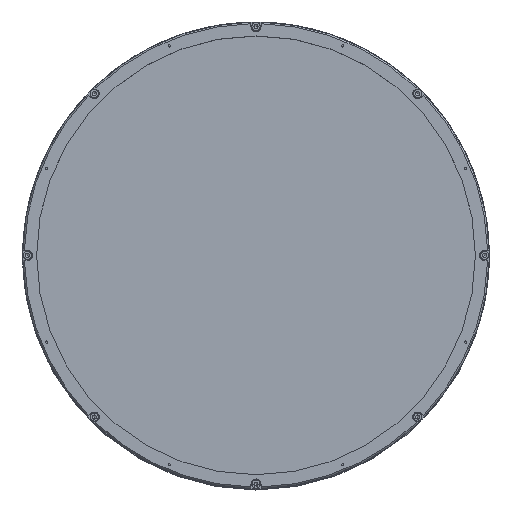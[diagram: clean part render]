
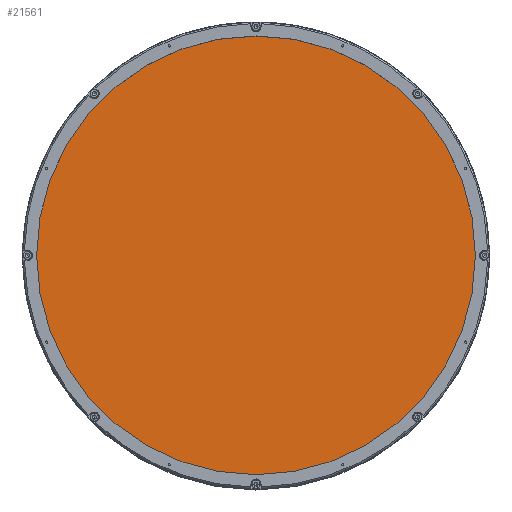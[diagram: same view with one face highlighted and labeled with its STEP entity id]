
A CAD part, top view. The second image highlights one B-rep face of the part: STEP entity #21561.
In plain terms, the highlighted planar face has unit normal (0, 0, 1).
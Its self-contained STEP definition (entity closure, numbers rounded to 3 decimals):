
#69 = CARTESIAN_POINT ( 'NONE',  ( 0., 141., 621.07 ) ) ;
#966 = ORIENTED_EDGE ( 'NONE', *, *, #5743, .F. ) ;
#1367 = CARTESIAN_POINT ( 'NONE',  ( 0., 0., 621.07 ) ) ;
#1604 = AXIS2_PLACEMENT_3D ( 'NONE', #18155, #7390, #19969 ) ;
#5743 = EDGE_CURVE ( 'NONE', #13460, #13460, #21651, .T. ) ;
#7390 = DIRECTION ( 'NONE',  ( 0., 0., -1. ) ) ;
#8612 = DIRECTION ( 'NONE',  ( 0., 0., -1. ) ) ;
#10504 = AXIS2_PLACEMENT_3D ( 'NONE', #1367, #8612, #21163 ) ;
#13460 = VERTEX_POINT ( 'NONE', #69 ) ;
#16373 = EDGE_LOOP ( 'NONE', ( #966 ) ) ;
#18155 = CARTESIAN_POINT ( 'NONE',  ( 0., 0., 621.07 ) ) ;
#19376 = PLANE ( 'NONE',  #10504 ) ;
#19901 = FACE_OUTER_BOUND ( 'NONE', #16373, .T. ) ;
#19969 = DIRECTION ( 'NONE',  ( 0., 1., 0. ) ) ;
#21163 = DIRECTION ( 'NONE',  ( 0., 1., 0. ) ) ;
#21561 = ADVANCED_FACE ( 'NONE', ( #19901 ), #19376, .F. ) ;
#21651 = CIRCLE ( 'NONE', #1604, 141. ) ;
